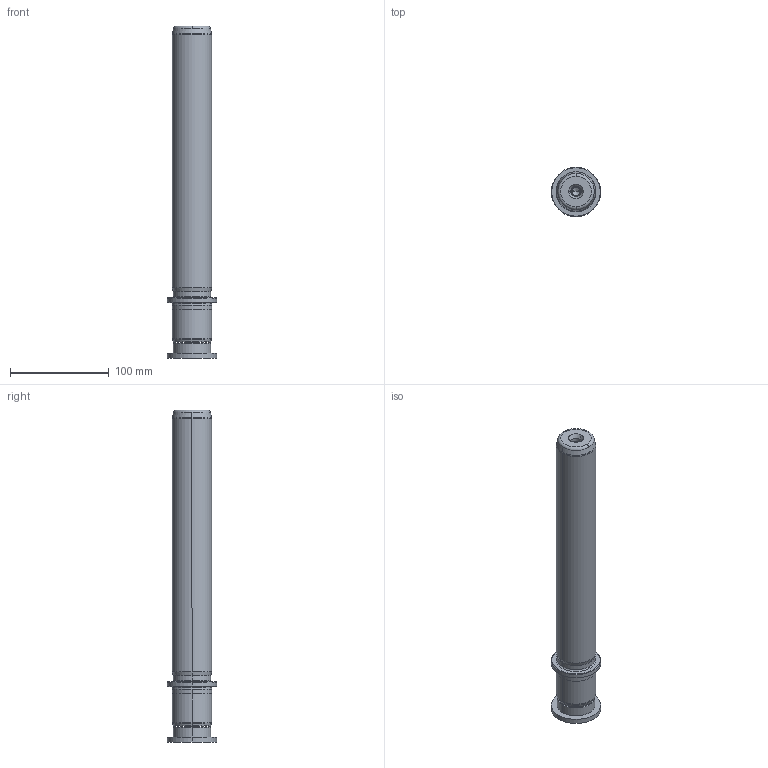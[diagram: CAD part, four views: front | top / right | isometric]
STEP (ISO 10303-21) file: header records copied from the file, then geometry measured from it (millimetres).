
FILE_DESCRIPTION((''),'2;1');
FILE_NAME('P22_040_280.stp','2009-02-16T10:21:54',(''),(''),'Mechanical Desktop 2009','Mechanical Desktop 2009',', , ');
FILE_SCHEMA(('CONFIG_CONTROL_DESIGN'));
Length unit declared in the file: millimetre
Products named in the file (2): Product; blmdl1
Assembly tree (1 placements, depth 2):
  Product
    blmdl1
Bounding box: 50 x 50 x 336 mm (x, y, z)
Volume: 420835.5 mm3; surface area: 53632.1 mm2
Topology: 3 solids, 3 shells, 99 faces, 237 edges, 149 vertices
Faces by surface type: cylinder 32, cone 28, plane 19, torus 10, bspline 10
Entity records: 3419 total; most frequent: CARTESIAN_POINT 923, DIRECTION 570, ORIENTED_EDGE 466, AXIS2_PLACEMENT_3D 246, EDGE_CURVE 233, CIRCLE 155, VERTEX_POINT 149, EDGE_LOOP 110
